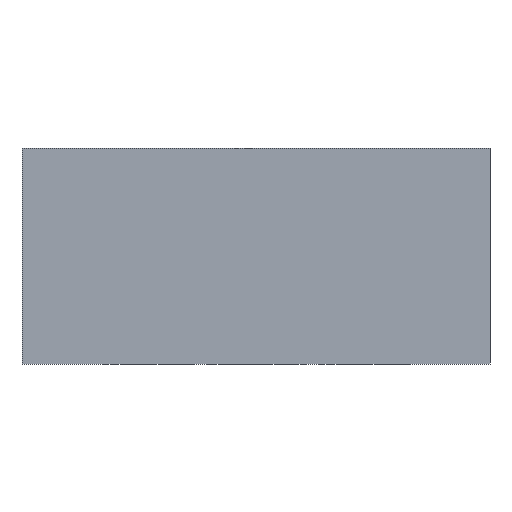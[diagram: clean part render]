
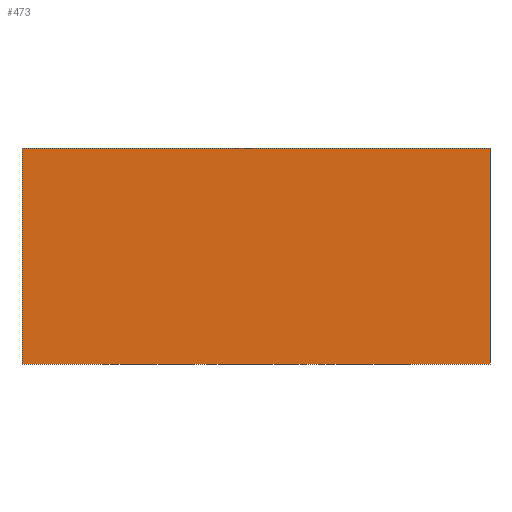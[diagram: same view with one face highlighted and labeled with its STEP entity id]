
A CAD part, front view. The second image highlights one B-rep face of the part: STEP entity #473.
In plain terms, the highlighted planar face has unit normal (0, -1, 0).
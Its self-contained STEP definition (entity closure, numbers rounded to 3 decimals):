
#18 = VERTEX_POINT ( 'NONE', #743 ) ;
#51 = AXIS2_PLACEMENT_3D ( 'NONE', #573, #581, #582 ) ;
#103 = ORIENTED_EDGE ( 'NONE', *, *, #409, .T. ) ;
#112 = ORIENTED_EDGE ( 'NONE', *, *, #406, .T. ) ;
#113 = ORIENTED_EDGE ( 'NONE', *, *, #411, .F. ) ;
#120 = ORIENTED_EDGE ( 'NONE', *, *, #410, .F. ) ;
#237 = LINE ( 'NONE', #439, #240 ) ;
#240 = VECTOR ( 'NONE', #440, 1000. ) ;
#241 = LINE ( 'NONE', #436, #250 ) ;
#243 = LINE ( 'NONE', #488, #246 ) ;
#245 = LINE ( 'NONE', #490, #248 ) ;
#246 = VECTOR ( 'NONE', #489, 1000. ) ;
#248 = VECTOR ( 'NONE', #492, 1000. ) ;
#250 = VECTOR ( 'NONE', #493, 1000. ) ;
#294 = FACE_OUTER_BOUND ( 'NONE', #759, .T. ) ;
#357 = VERTEX_POINT ( 'NONE', #737 ) ;
#359 = VERTEX_POINT ( 'NONE', #735 ) ;
#406 = EDGE_CURVE ( 'NONE', #18, #357, #237, .T. ) ;
#409 = EDGE_CURVE ( 'NONE', #357, #359, #243, .T. ) ;
#410 = EDGE_CURVE ( 'NONE', #751, #359, #245, .T. ) ;
#411 = EDGE_CURVE ( 'NONE', #18, #751, #241, .T. ) ;
#436 = CARTESIAN_POINT ( 'NONE',  ( -13., -52.5, 12. ) ) ;
#439 = CARTESIAN_POINT ( 'NONE',  ( -13., -52.5, 12. ) ) ;
#440 = DIRECTION ( 'NONE',  ( 0., 0., -1. ) ) ;
#473 = ADVANCED_FACE ( 'NONE', ( #294 ), #578, .F. ) ;
#488 = CARTESIAN_POINT ( 'NONE',  ( -13., -52.5, 0. ) ) ;
#489 = DIRECTION ( 'NONE',  ( 1., 0., 0. ) ) ;
#490 = CARTESIAN_POINT ( 'NONE',  ( 13., -52.5, 12. ) ) ;
#492 = DIRECTION ( 'NONE',  ( 0., 0., -1. ) ) ;
#493 = DIRECTION ( 'NONE',  ( 1., 0., 0. ) ) ;
#573 = CARTESIAN_POINT ( 'NONE',  ( -13., -52.5, 12. ) ) ;
#578 = PLANE ( 'NONE',  #51 ) ;
#581 = DIRECTION ( 'NONE',  ( 0., 1., 0. ) ) ;
#582 = DIRECTION ( 'NONE',  ( 0., 0., 1. ) ) ;
#624 = CARTESIAN_POINT ( 'NONE',  ( 13., -52.5, 12. ) ) ;
#735 = CARTESIAN_POINT ( 'NONE',  ( 13., -52.5, 0. ) ) ;
#737 = CARTESIAN_POINT ( 'NONE',  ( -13., -52.5, 0. ) ) ;
#743 = CARTESIAN_POINT ( 'NONE',  ( -13., -52.5, 12. ) ) ;
#751 = VERTEX_POINT ( 'NONE', #624 ) ;
#759 = EDGE_LOOP ( 'NONE', ( #103, #120, #113, #112 ) ) ;
